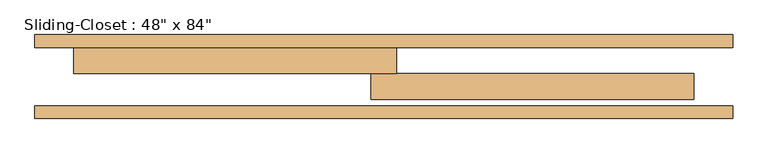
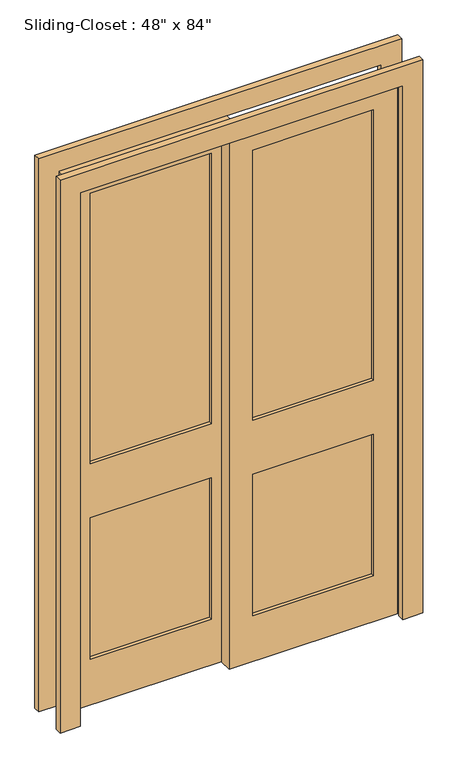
"""IFC4 building model written with IfcOpenShell, lengths in millimetres: door geometry."""

from ifc_helpers import new_model, si_unit, frame, origin, place, context, project, spatial, polyline, outline, extrude, source, transform, mapped, element, save


def door_24e9c58a(model_context):
    return source(origin(), model_context, "Body", "SweptSolid", [
        extrude(outline(polyline([(-63.5, 146.05), (-520.7, 146.05), (-520.7, 171.45), (-63.5, 171.45), (-63.5, 146.05)])), frame((0.0, 0.0, 965.2), z_axis=(0.0, 0.0, 1.0), x_axis=(1.0, 0.0, 0.0)), (0.0, 0.0, 1.0), 1079.5),
        extrude(outline(polyline([(-63.5, 146.05), (-520.7, 146.05), (-520.7, 171.45), (-63.5, 171.45), (-63.5, 146.05)])), frame((0.0, 0.0, 184.15), z_axis=(0.0, 0.0, 1.0), x_axis=(1.0, 0.0, 0.0)), (0.0, 0.0, 1.0), 565.15),
        extrude(outline(polyline([(63.5, 120.65), (520.7, 120.65), (520.7, 95.25), (63.5, 95.25), (63.5, 120.65)])), frame((0.0, 0.0, 965.2), z_axis=(0.0, 0.0, 1.0), x_axis=(1.0, 0.0, 0.0)), (0.0, 0.0, 1.0), 1079.5),
        extrude(outline(polyline([(63.5, 120.65), (520.7, 120.65), (520.7, 95.25), (63.5, 95.25), (63.5, 120.65)])), frame((0.0, 0.0, 184.15), z_axis=(0.0, 0.0, 1.0), x_axis=(1.0, 0.0, 0.0)), (0.0, 0.0, 1.0), 565.15),
        extrude(outline(polyline([(2133.6, 25.4), (2133.6, -609.6), (0.0, -609.6), (0.0, 25.4), (2133.6, 25.4)]), holes=[polyline([(184.15, -520.7), (749.3, -520.7), (749.3, -63.5), (184.15, -63.5), (184.15, -520.7)]), polyline([(965.2, -520.7), (2044.7, -520.7), (2044.7, -63.5), (965.2, -63.5), (965.2, -520.7)])]), frame((0.0, 133.35, 0.0), z_axis=(0.0, 1.0, 0.0), x_axis=(0.0, 0.0, 1.0)), (0.0, 0.0, 1.0), 50.8),
        extrude(outline(polyline([(0.0, -685.8), (0.0, -609.6), (2133.6, -609.6), (2133.6, 609.6), (0.0, 609.6), (0.0, 685.8), (2209.8, 685.8), (2209.8, -685.8), (0.0, -685.8)])), frame((0.0, 44.45, 0.0), z_axis=(0.0, 1.0, 0.0), x_axis=(0.0, 0.0, 1.0)), (0.0, 0.0, 1.0), 25.4),
        extrude(outline(polyline([(0.0, 685.8), (2209.8, 685.8), (2209.8, -685.8), (0.0, -685.8), (0.0, -609.6), (2133.6, -609.6), (2133.6, 609.6), (0.0, 609.6), (0.0, 685.8)])), frame((0.0, 184.15, 0.0), z_axis=(0.0, 1.0, 0.0), x_axis=(0.0, 0.0, 1.0)), (0.0, 0.0, 1.0), 25.4),
        extrude(outline(polyline([(2133.6, -25.4), (0.0, -25.4), (0.0, 609.6), (2133.6, 609.6), (2133.6, -25.4)]), holes=[polyline([(965.2, 520.7), (965.2, 63.5), (2044.7, 63.5), (2044.7, 520.7), (965.2, 520.7)]), polyline([(184.15, 520.7), (184.15, 63.5), (749.3, 63.5), (749.3, 520.7), (184.15, 520.7)])]), frame((0.0, 82.55, 0.0), z_axis=(0.0, 1.0, 0.0), x_axis=(0.0, 0.0, 1.0)), (0.0, 0.0, 1.0), 50.8),
    ])


if __name__ == "__main__":
    model = new_model("IFC4")
    model_context = context("Model", 3, world=origin())
    ifc_project = project(units=[si_unit("LENGTHUNIT", "METRE", prefix="MILLI")], contexts=[model_context])
    site = spatial("IfcSite", under=ifc_project)
    building = spatial("IfcBuilding", under=site)
    placement = place(None, origin())
    door_shape = door_24e9c58a(model_context)
    element("IfcDoor", 1, ObjectType="Sliding-Closet : 48\" x 84\"", at=placement, inside=building, context=model_context, shape_type="MappedRepresentation", body=[
        mapped(door_shape, transform((0.0, 0.0, 0.0), x_axis=(1.0, 0.0, 0.0), y_axis=(0.0, 1.0, 0.0), z_axis=(0.0, 0.0, 1.0))),
    ])
    save(model, "model.ifc")
